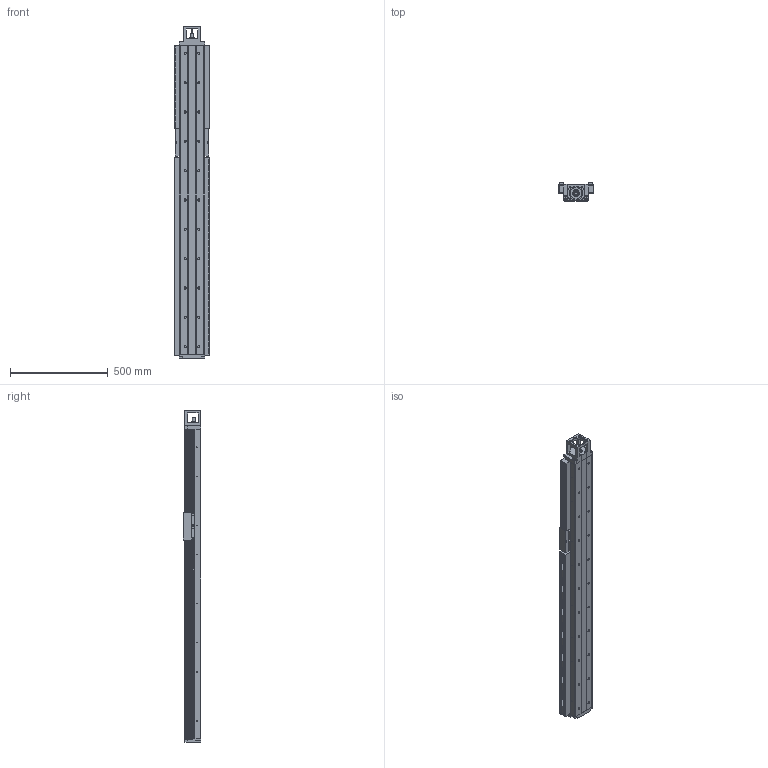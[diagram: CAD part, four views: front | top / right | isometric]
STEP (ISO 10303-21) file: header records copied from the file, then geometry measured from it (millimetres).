
FILE_DESCRIPTION(/* description */ (''),/* implementation_level */ '2;1');
FILE_NAME(/* name */ 'TKK130-1580A1F0B.stp',/* time_stamp */ '2017-01-23T08:57:21+08:00',/* author */ (''),/* organization */ (''),/* preprocessor_version */ 'ST-DEVELOPER v15',/* originating_system */ 'SIEMENS PLM Software NX 8.5',/* authorisation */ '');
FILE_SCHEMA (('AUTOMOTIVE_DESIGN { 1 0 10303 214 3 1 1 1 }'));
Products named in the file (3): 022; 011; TKK130-1580A1F0B
Assembly tree (2 placements, depth 2):
  TKK130-1580A1F0B
    011
    022
Bounding box: 184 x 92 x 1698 mm (x, y, z)
Volume: 17144176.3 mm3; surface area: 1989801.9 mm2
Topology: 5 solids, 30 shells, 3262 faces, 7971 edges, 4807 vertices
Faces by surface type: plane 2779, cylinder 331, cone 112, extrusion 33, bspline 6, torus 1
Full cylindrical faces by diameter (mm): 2.1 x16, 2.5 x8, 3.3 x41, 4.5 x20, 5 x23, 6.6 x10, 6.8 x12, 7 x2, 8 x16, 8.5 x4, 9 x8, 11 x30, 12 x4, 15 x1, 16.3 x1, 17 x24, 17.5 x4, 25 x1, 35 x2, 40 x3, 60.03 x1, 70.03 x1
Entity records: 91312 total; most frequent: CARTESIAN_POINT 17205, ORIENTED_EDGE 14738, DIRECTION 14372, EDGE_CURVE 7369, VECTOR 6476, LINE 6443, VERTEX_POINT 4637, AXIS2_PLACEMENT_3D 3948
